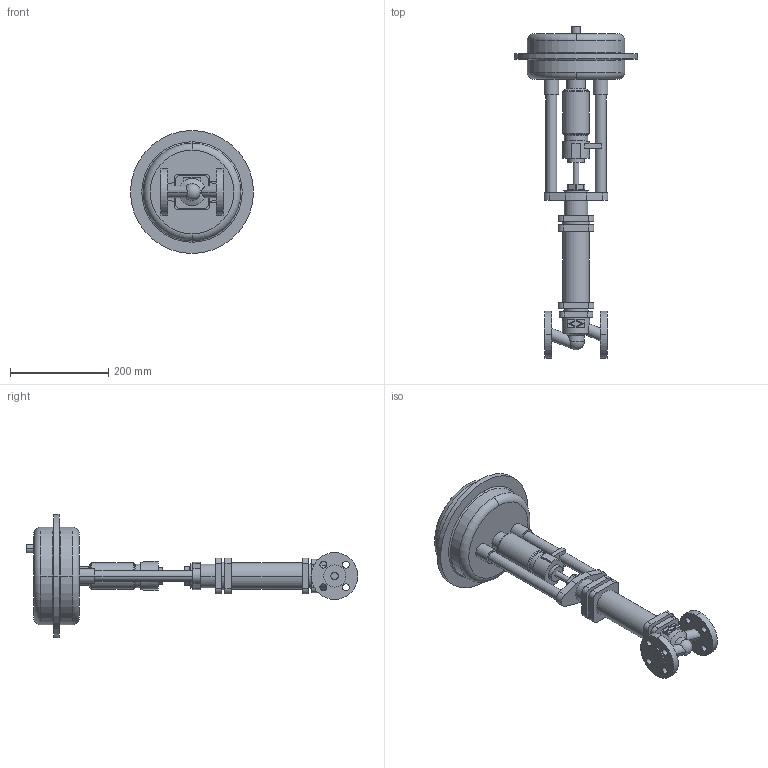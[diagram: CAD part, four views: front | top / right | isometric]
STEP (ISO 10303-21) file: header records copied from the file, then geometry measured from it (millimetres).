
FILE_DESCRIPTION( ( '' ), '1' );
FILE_NAME( 'F:/DE-SHS/TB/OR/04-Sonstiges/daten/files_3d/440-441/Figur441_DN15_PN40_DP32.stp', '2015-03-31T09:23:33', ( '' ), ( '' ), ' ', ' ', ' ' );
FILE_SCHEMA( ( 'CONFIG_CONTROL_DESIGN' ) );
Length unit declared in the file: millimetre
Products named in the file (2): 1; 2
Bounding box: 250 x 674.5 x 250 mm (x, y, z)
Volume: 4644974.5 mm3; surface area: 353771.1 mm2
Topology: 2 solids, 2 shells, 217 faces, 551 edges, 368 vertices
Faces by surface type: cylinder 102, plane 92, torus 16, cone 6, sphere 1
Entity records: 7065 total; most frequent: CARTESIAN_POINT 1438, DIRECTION 1251, ORIENTED_EDGE 1098, EDGE_CURVE 549, AXIS2_PLACEMENT_3D 495, VERTEX_POINT 368, CIRCLE 272, EDGE_LOOP 265
